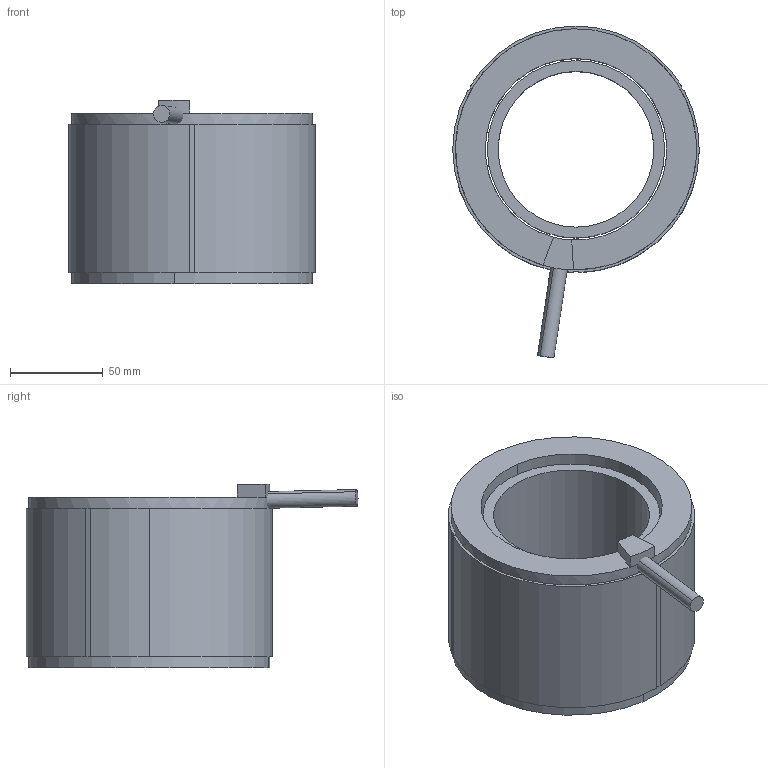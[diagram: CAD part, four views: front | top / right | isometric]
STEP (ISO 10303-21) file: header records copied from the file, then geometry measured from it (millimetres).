
FILE_DESCRIPTION (( 'STEP AP203' ), '1' );
FILE_NAME ('TM133-92 KIT 3D.STEP', '2021-05-08T00:57:09', ( '' ), ( '' ), 'SwSTEP 2.0', 'SolidWorks 2021', '' );
FILE_SCHEMA (( 'CONFIG_CONTROL_DESIGN' ));
Length unit declared in the file: millimetre
Products named in the file (1): TM133-92 KIT 3D
Bounding box: 133 x 179.09 x 99 mm (x, y, z)
Volume: 715598.3 mm3; surface area: 130338.8 mm2
Topology: 3 solids, 3 shells, 40 faces, 91 edges, 58 vertices
Faces by surface type: plane 22, cylinder 18
Entity records: 1212 total; most frequent: DIRECTION 213, CARTESIAN_POINT 190, ORIENTED_EDGE 182, EDGE_CURVE 91, AXIS2_PLACEMENT_3D 81, VERTEX_POINT 58, VECTOR 51, LINE 51
